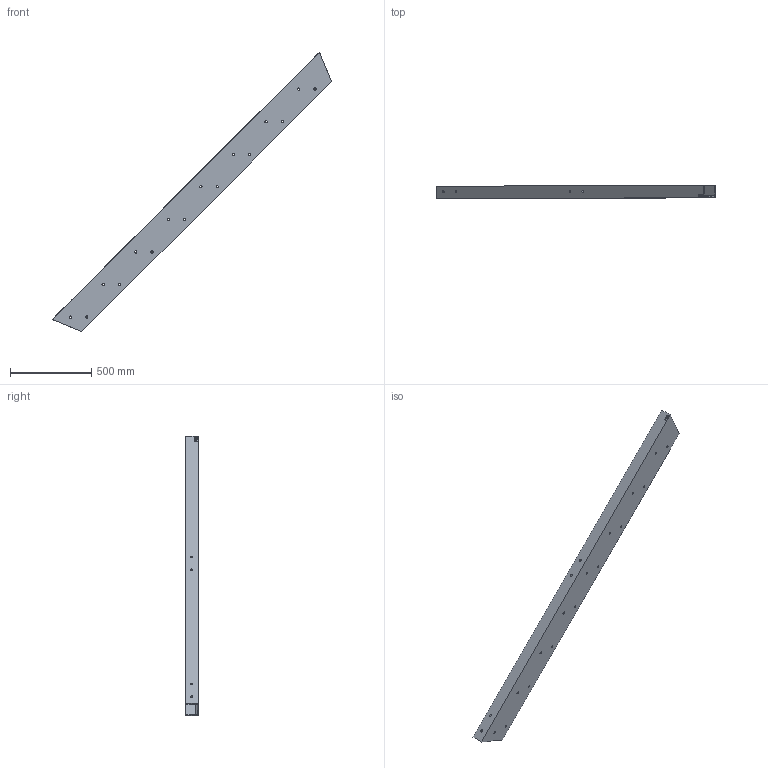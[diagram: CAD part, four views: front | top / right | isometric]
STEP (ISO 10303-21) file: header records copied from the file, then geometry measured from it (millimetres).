
FILE_DESCRIPTION (( 'STEP AP214' ), '1' );
FILE_NAME ('CCJ029-REP.36 - MONTANT ESCALIER INTERMEDIAIRE.STEP', '2024-01-10T14:32:43', ( '' ), ( '' ), 'SwSTEP 2.0', 'SolidWorks 2021', '' );
FILE_SCHEMA (( 'AUTOMOTIVE_DESIGN' ));
Length unit declared in the file: millimetre
Products named in the file (1): CCJ029-REP.36 - MONTANT ESCALIER INTERMEDIAIRE
Bounding box: 1714.56 x 75 x 1714.56 mm (x, y, z)
Volume: 5617170.3 mm3; surface area: 1438823 mm2
Topology: 1 solids, 1 shells, 95 faces, 264 edges, 176 vertices
Faces by surface type: cylinder 42, bspline 32, plane 21
Entity records: 5068 total; most frequent: CARTESIAN_POINT 2668, ORIENTED_EDGE 528, DIRECTION 404, EDGE_CURVE 264, VERTEX_POINT 176, AXIS2_PLACEMENT_3D 144, EDGE_LOOP 140, VECTOR 116
